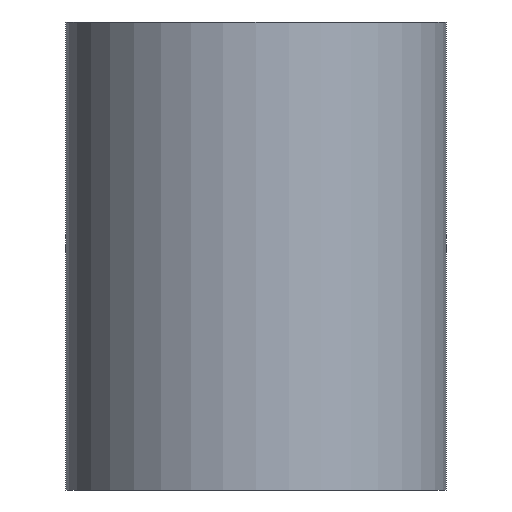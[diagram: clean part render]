
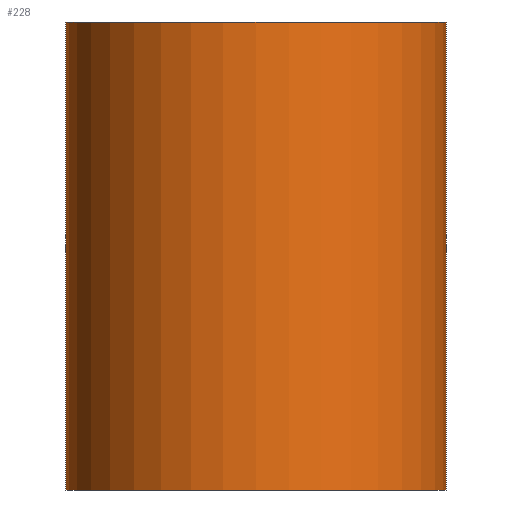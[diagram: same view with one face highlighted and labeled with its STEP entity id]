
A CAD part, left-side view. The second image highlights one B-rep face of the part: STEP entity #228.
In plain terms, the highlighted cylindrical face has radius 5 mm (diameter 10 mm), a partial arc.
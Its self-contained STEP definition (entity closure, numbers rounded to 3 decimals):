
#44 = PLANE('',#45);
#45 = AXIS2_PLACEMENT_3D('',#46,#47,#48);
#46 = CARTESIAN_POINT('',(-22.5,5.,0.));
#47 = DIRECTION('',(0.,1.,0.));
#48 = DIRECTION('',(1.,0.,0.));
#73 = PLANE('',#74);
#74 = AXIS2_PLACEMENT_3D('',#75,#76,#77);
#75 = CARTESIAN_POINT('',(0.,0.,12.3));
#76 = DIRECTION('',(0.,0.,1.));
#77 = DIRECTION('',(1.,0.,-0.));
#105 = PLANE('',#106);
#106 = AXIS2_PLACEMENT_3D('',#107,#108,#109);
#107 = CARTESIAN_POINT('',(0.,-5.,0.));
#108 = DIRECTION('',(0.,1.,0.));
#109 = DIRECTION('',(1.,0.,0.));
#132 = PLANE('',#133);
#133 = AXIS2_PLACEMENT_3D('',#134,#135,#136);
#134 = CARTESIAN_POINT('',(0.,0.,0.));
#135 = DIRECTION('',(0.,0.,1.));
#136 = DIRECTION('',(1.,0.,-0.));
#153 = VERTEX_POINT('',#154);
#154 = CARTESIAN_POINT('',(-22.5,-5.,12.3));
#175 = EDGE_CURVE('',#153,#176,#178,.T.);
#176 = VERTEX_POINT('',#177);
#177 = CARTESIAN_POINT('',(-22.5,5.,12.3));
#178 = SURFACE_CURVE('',#179,(#184,#195),.PCURVE_S1.);
#179 = CIRCLE('',#180,5.);
#180 = AXIS2_PLACEMENT_3D('',#181,#182,#183);
#181 = CARTESIAN_POINT('',(-22.5,0.,12.3));
#182 = DIRECTION('',(0.,0.,-1.));
#183 = DIRECTION('',(1.,0.,0.));
#184 = PCURVE('',#73,#185);
#185 = DEFINITIONAL_REPRESENTATION('',(#186),#194);
#186 = ( BOUNDED_CURVE() B_SPLINE_CURVE(2,(#187,#188,#189,#190,#191,#192
,#193),.UNSPECIFIED.,.T.,.F.) B_SPLINE_CURVE_WITH_KNOTS((1,2,2,2,2,1),(
    -2.094,0.,2.094,4.189,6.283,
8.378),.UNSPECIFIED.) CURVE() GEOMETRIC_REPRESENTATION_ITEM() 
RATIONAL_B_SPLINE_CURVE((1.,0.5,1.,0.5,1.,0.5,1.)) REPRESENTATION_ITEM(
  '') );
#187 = CARTESIAN_POINT('',(-17.5,0.));
#188 = CARTESIAN_POINT('',(-17.5,-8.66));
#189 = CARTESIAN_POINT('',(-25.,-4.33));
#190 = CARTESIAN_POINT('',(-32.5,0.));
#191 = CARTESIAN_POINT('',(-25.,4.33));
#192 = CARTESIAN_POINT('',(-17.5,8.66));
#193 = CARTESIAN_POINT('',(-17.5,0.));
#194 = ( GEOMETRIC_REPRESENTATION_CONTEXT(2) 
PARAMETRIC_REPRESENTATION_CONTEXT() REPRESENTATION_CONTEXT('2D SPACE',''
  ) );
#195 = PCURVE('',#196,#201);
#196 = CYLINDRICAL_SURFACE('',#197,5.);
#197 = AXIS2_PLACEMENT_3D('',#198,#199,#200);
#198 = CARTESIAN_POINT('',(-22.5,0.,0.));
#199 = DIRECTION('',(0.,0.,-1.));
#200 = DIRECTION('',(1.,0.,0.));
#201 = DEFINITIONAL_REPRESENTATION('',(#202),#206);
#202 = LINE('',#203,#204);
#203 = CARTESIAN_POINT('',(0.,-12.3));
#204 = VECTOR('',#205,1.);
#205 = DIRECTION('',(1.,0.));
#206 = ( GEOMETRIC_REPRESENTATION_CONTEXT(2) 
PARAMETRIC_REPRESENTATION_CONTEXT() REPRESENTATION_CONTEXT('2D SPACE',''
  ) );
#228 = ADVANCED_FACE('',(#229),#196,.T.);
#229 = FACE_BOUND('',#230,.T.);
#230 = EDGE_LOOP('',(#231,#254,#255,#278));
#231 = ORIENTED_EDGE('',*,*,#232,.T.);
#232 = EDGE_CURVE('',#233,#153,#235,.T.);
#233 = VERTEX_POINT('',#234);
#234 = CARTESIAN_POINT('',(-22.5,-5.,0.));
#235 = SURFACE_CURVE('',#236,(#240,#247),.PCURVE_S1.);
#236 = LINE('',#237,#238);
#237 = CARTESIAN_POINT('',(-22.5,-5.,0.));
#238 = VECTOR('',#239,1.);
#239 = DIRECTION('',(0.,0.,1.));
#240 = PCURVE('',#196,#241);
#241 = DEFINITIONAL_REPRESENTATION('',(#242),#246);
#242 = LINE('',#243,#244);
#243 = CARTESIAN_POINT('',(1.571,0.));
#244 = VECTOR('',#245,1.);
#245 = DIRECTION('',(0.,-1.));
#246 = ( GEOMETRIC_REPRESENTATION_CONTEXT(2) 
PARAMETRIC_REPRESENTATION_CONTEXT() REPRESENTATION_CONTEXT('2D SPACE',''
  ) );
#247 = PCURVE('',#105,#248);
#248 = DEFINITIONAL_REPRESENTATION('',(#249),#253);
#249 = LINE('',#250,#251);
#250 = CARTESIAN_POINT('',(-22.5,0.));
#251 = VECTOR('',#252,1.);
#252 = DIRECTION('',(0.,-1.));
#253 = ( GEOMETRIC_REPRESENTATION_CONTEXT(2) 
PARAMETRIC_REPRESENTATION_CONTEXT() REPRESENTATION_CONTEXT('2D SPACE',''
  ) );
#254 = ORIENTED_EDGE('',*,*,#175,.T.);
#255 = ORIENTED_EDGE('',*,*,#256,.F.);
#256 = EDGE_CURVE('',#257,#176,#259,.T.);
#257 = VERTEX_POINT('',#258);
#258 = CARTESIAN_POINT('',(-22.5,5.,0.));
#259 = SURFACE_CURVE('',#260,(#264,#271),.PCURVE_S1.);
#260 = LINE('',#261,#262);
#261 = CARTESIAN_POINT('',(-22.5,5.,0.));
#262 = VECTOR('',#263,1.);
#263 = DIRECTION('',(0.,0.,1.));
#264 = PCURVE('',#196,#265);
#265 = DEFINITIONAL_REPRESENTATION('',(#266),#270);
#266 = LINE('',#267,#268);
#267 = CARTESIAN_POINT('',(4.712,0.));
#268 = VECTOR('',#269,1.);
#269 = DIRECTION('',(0.,-1.));
#270 = ( GEOMETRIC_REPRESENTATION_CONTEXT(2) 
PARAMETRIC_REPRESENTATION_CONTEXT() REPRESENTATION_CONTEXT('2D SPACE',''
  ) );
#271 = PCURVE('',#44,#272);
#272 = DEFINITIONAL_REPRESENTATION('',(#273),#277);
#273 = LINE('',#274,#275);
#274 = CARTESIAN_POINT('',(0.,0.));
#275 = VECTOR('',#276,1.);
#276 = DIRECTION('',(0.,-1.));
#277 = ( GEOMETRIC_REPRESENTATION_CONTEXT(2) 
PARAMETRIC_REPRESENTATION_CONTEXT() REPRESENTATION_CONTEXT('2D SPACE',''
  ) );
#278 = ORIENTED_EDGE('',*,*,#279,.F.);
#279 = EDGE_CURVE('',#233,#257,#280,.T.);
#280 = SURFACE_CURVE('',#281,(#286,#293),.PCURVE_S1.);
#281 = CIRCLE('',#282,5.);
#282 = AXIS2_PLACEMENT_3D('',#283,#284,#285);
#283 = CARTESIAN_POINT('',(-22.5,0.,0.));
#284 = DIRECTION('',(0.,0.,-1.));
#285 = DIRECTION('',(1.,0.,0.));
#286 = PCURVE('',#196,#287);
#287 = DEFINITIONAL_REPRESENTATION('',(#288),#292);
#288 = LINE('',#289,#290);
#289 = CARTESIAN_POINT('',(0.,0.));
#290 = VECTOR('',#291,1.);
#291 = DIRECTION('',(1.,0.));
#292 = ( GEOMETRIC_REPRESENTATION_CONTEXT(2) 
PARAMETRIC_REPRESENTATION_CONTEXT() REPRESENTATION_CONTEXT('2D SPACE',''
  ) );
#293 = PCURVE('',#132,#294);
#294 = DEFINITIONAL_REPRESENTATION('',(#295),#303);
#295 = ( BOUNDED_CURVE() B_SPLINE_CURVE(2,(#296,#297,#298,#299,#300,#301
,#302),.UNSPECIFIED.,.T.,.F.) B_SPLINE_CURVE_WITH_KNOTS((1,2,2,2,2,1),(
    -2.094,0.,2.094,4.189,6.283,
8.378),.UNSPECIFIED.) CURVE() GEOMETRIC_REPRESENTATION_ITEM() 
RATIONAL_B_SPLINE_CURVE((1.,0.5,1.,0.5,1.,0.5,1.)) REPRESENTATION_ITEM(
  '') );
#296 = CARTESIAN_POINT('',(-17.5,0.));
#297 = CARTESIAN_POINT('',(-17.5,-8.66));
#298 = CARTESIAN_POINT('',(-25.,-4.33));
#299 = CARTESIAN_POINT('',(-32.5,0.));
#300 = CARTESIAN_POINT('',(-25.,4.33));
#301 = CARTESIAN_POINT('',(-17.5,8.66));
#302 = CARTESIAN_POINT('',(-17.5,0.));
#303 = ( GEOMETRIC_REPRESENTATION_CONTEXT(2) 
PARAMETRIC_REPRESENTATION_CONTEXT() REPRESENTATION_CONTEXT('2D SPACE',''
  ) );
